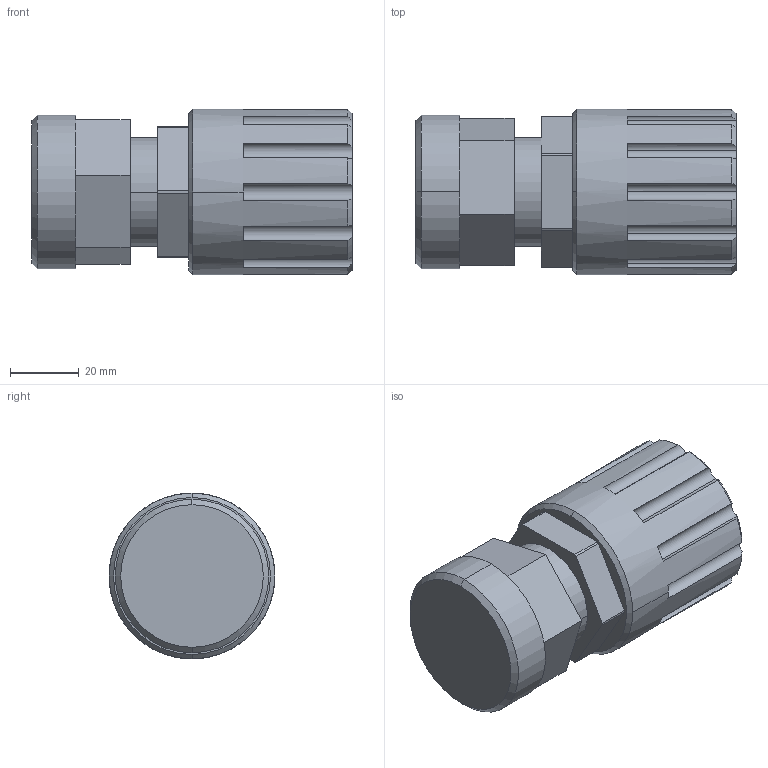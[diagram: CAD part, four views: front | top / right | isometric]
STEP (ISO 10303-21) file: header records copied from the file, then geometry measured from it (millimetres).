
FILE_DESCRIPTION (( 'STEP AP214' ), '1' );
FILE_NAME ('20-flaretek-with-top-mount-adapter.STEP', '2012-11-27T17:29:51', ( '' ), ( '' ), 'SwSTEP 2.0', 'SolidWorks 2012', '' );
FILE_SCHEMA (( 'AUTOMOTIVE_DESIGN' ));
Length unit declared in the file: inch
Products named in the file (1): 20-flaretek-with-top-mount-adapter
Bounding box: 93.22 x 48.26 x 48.26 mm (x, y, z)
Volume: 132310.3 mm3; surface area: 20247.6 mm2
Topology: 1 solids, 1 shells, 78 faces, 211 edges, 140 vertices
Faces by surface type: cylinder 31, plane 31, cone 16
Entity records: 3174 total; most frequent: CARTESIAN_POINT 556, DIRECTION 445, ORIENTED_EDGE 422, EDGE_CURVE 211, AXIS2_PLACEMENT_3D 181, VERTEX_POINT 140, CIRCLE 102, EDGE_LOOP 83
